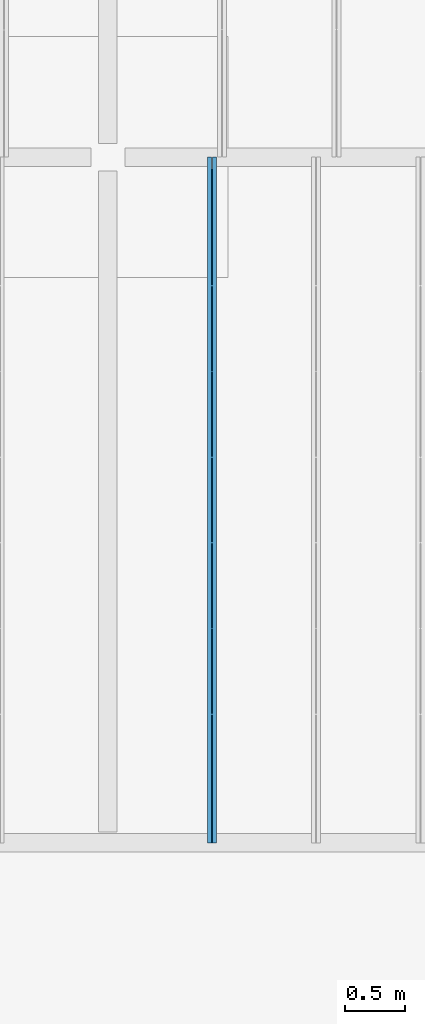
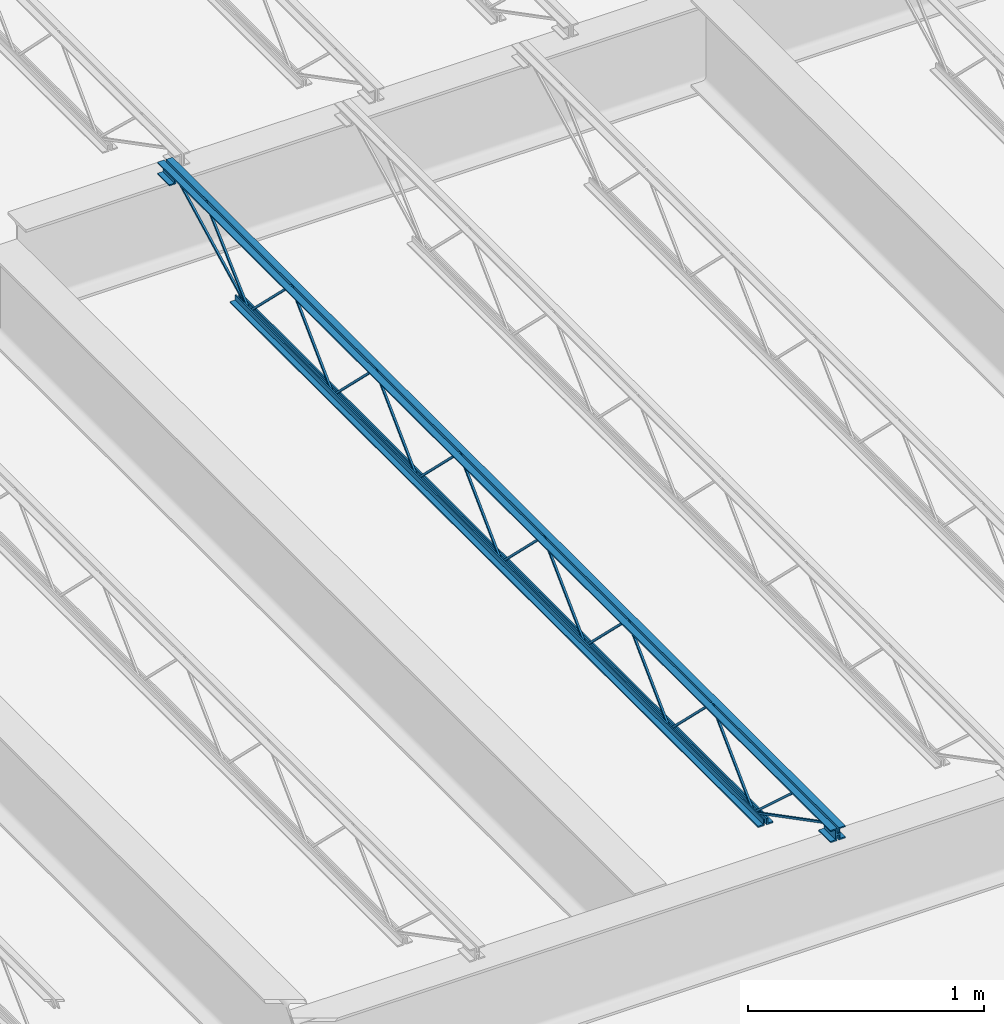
# One storey, part 21 of 75: 1 beam.
"""IFC2X3 building model written with IfcOpenShell, lengths in metres."""

from ifc_helpers import new_model, entity, si_unit, converted_unit, frame, origin, place, context, project, spatial, face_set, surface_model, element, save


model = new_model("IFC2X3")

# Units and contexts
model_context = context("Model", 3, precision=1e-09, world=origin())
plan_context = context("Plan", 3, precision=1e-09, world=origin())
ifc_project = project(units=[si_unit("LENGTHUNIT", "METRE"), si_unit("AREAUNIT", "SQUARE_METRE"), si_unit("VOLUMEUNIT", "CUBIC_METRE"), converted_unit("PLANEANGLEUNIT", "DEGREE", entity("IfcRatioMeasure", 0.01745329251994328), si_unit("PLANEANGLEUNIT", "RADIAN"), dimensions=[0, 0, 0, 0, 0, 0, 0]), si_unit("TIMEUNIT", "SECOND")], contexts=[model_context, plan_context])

# Site, building, storey
site_placement = place(None, origin())
site = spatial("IfcSite", under=ifc_project, at=site_placement, Name="Default", CompositionType="ELEMENT")
building_placement = place(site_placement, origin())
building = spatial("IfcBuilding", under=site, at=building_placement, CompositionType="ELEMENT")
storey_placement = place(building_placement, origin())
storey = spatial("IfcBuildingStorey", under=building, at=storey_placement, Name="First Floor", CompositionType="ELEMENT", Elevation=-3.531500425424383e-13)

# Beam
beam_placement = place(storey_placement, frame((-14.05124594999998, 12.91254609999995, 4.112000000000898)))
element("IfcBeam", 1, at=beam_placement, inside=storey, Name="M_K-Series Bar Joist-Rod Web:14K1:14K1", ObjectType="M_K-Series Bar Joist-Rod Web:14K1", context=model_context, shape_type="SurfaceModel", body=[
    surface_model("IfcFaceBasedSurfaceModel", [(0.04149999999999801, 3.560666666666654, 0.01110000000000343), (0.03200000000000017, 3.560666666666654, 0.01110000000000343), (0.03200000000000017, 3.560666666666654, 0.001600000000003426), (0.04149999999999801, 3.560666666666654, 0.001600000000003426), (0.031999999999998, 3.561899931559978, 0.01110000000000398), (0.041499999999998, 3.561899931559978, 0.01110000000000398), (0.03200000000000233, 3.565783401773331, 0.001600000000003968), (0.0320000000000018, 3.915516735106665, 0.3449000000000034), (0.03200000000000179, 3.917983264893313, 0.3449000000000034), (0.03200000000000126, 4.267716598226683, 0.001600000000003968), (0.03200000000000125, 4.272833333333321, 0.001600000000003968), (0.03199999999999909, 4.272833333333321, 0.01110000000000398), (0.03199999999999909, 4.271600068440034, 0.01110000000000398), (0.03199999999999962, 3.921866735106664, 0.3544000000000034), (0.03199999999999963, 3.911633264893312, 0.3544000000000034), (0.04150000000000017, 3.565783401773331, 0.001600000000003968), (0.04149999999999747, 3.915516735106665, 0.3449000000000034), (0.04149999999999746, 3.91798326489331, 0.3449000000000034), (0.04149999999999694, 4.267716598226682, 0.001600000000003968), (0.04149999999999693, 4.272833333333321, 0.001600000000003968), (0.04149999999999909, 4.272833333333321, 0.01110000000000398), (0.04149999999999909, 4.271600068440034, 0.01110000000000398), (0.04149999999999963, 3.921866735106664, 0.3544000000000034), (0.04149999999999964, 3.911633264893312, 0.3544000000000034), (0.04149999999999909, 2.848499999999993, 0.01110000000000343), (0.03200000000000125, 2.848499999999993, 0.01110000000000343), (0.03200000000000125, 2.848499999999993, 0.001600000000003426), (0.04149999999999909, 2.848499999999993, 0.001600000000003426), (0.03199999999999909, 2.849733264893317, 0.01110000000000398), (0.04149999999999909, 2.849733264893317, 0.01110000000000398), (0.03200000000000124, 2.85361673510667, 0.001600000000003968), (0.03200000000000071, 3.203350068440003, 0.3449000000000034), (0.03200000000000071, 3.20581659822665, 0.3449000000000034), (0.03200000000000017, 3.55554993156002, 0.001600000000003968), (0.03200000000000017, 3.560666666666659, 0.001600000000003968), (0.03200000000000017, 3.560666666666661, 0.01110000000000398), (0.03200000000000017, 3.559433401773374, 0.01110000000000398), (0.0320000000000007, 3.209700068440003, 0.3544000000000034), (0.03200000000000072, 3.199466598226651, 0.3544000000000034), (0.04150000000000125, 2.85361673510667, 0.001600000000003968), (0.04149999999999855, 3.203350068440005, 0.3449000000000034), (0.04149999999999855, 3.20581659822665, 0.3449000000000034), (0.04149999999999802, 3.55554993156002, 0.001600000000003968), (0.04149999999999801, 3.560666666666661, 0.001600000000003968), (0.04149999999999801, 3.560666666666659, 0.01110000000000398), (0.04149999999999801, 3.559433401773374, 0.01110000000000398), (0.04149999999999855, 3.209700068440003, 0.3544000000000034), (0.04149999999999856, 3.199466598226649, 0.3544000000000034), (0.04150000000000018, 2.136333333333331, 0.01110000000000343), (0.03200000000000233, 2.136333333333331, 0.01110000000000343), (0.03200000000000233, 2.136333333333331, 0.001600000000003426), (0.04150000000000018, 2.136333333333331, 0.001600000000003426), (0.03200000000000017, 2.137566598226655, 0.01110000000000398), (0.04150000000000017, 2.137566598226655, 0.01110000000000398), (0.03200000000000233, 2.141450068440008, 0.001600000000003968), (0.0320000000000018, 2.491183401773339, 0.3449000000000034), (0.03200000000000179, 2.493649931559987, 0.3449000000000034), (0.03200000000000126, 2.843383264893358, 0.001600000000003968), (0.03200000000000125, 2.848499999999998, 0.001600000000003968), (0.03200000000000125, 2.848499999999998, 0.01110000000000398), (0.03200000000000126, 2.847266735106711, 0.01110000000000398), (0.03200000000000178, 2.49753340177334, 0.3544000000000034), (0.0320000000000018, 2.487299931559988, 0.3544000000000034), (0.04150000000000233, 2.141450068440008, 0.001600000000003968), (0.04149999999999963, 2.491183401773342, 0.3449000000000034), (0.04149999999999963, 2.493649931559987, 0.3449000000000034), (0.0414999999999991, 2.843383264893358, 0.001600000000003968), (0.04149999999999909, 2.848499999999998, 0.001600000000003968), (0.04149999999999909, 2.848499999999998, 0.01110000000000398), (0.04149999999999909, 2.847266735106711, 0.01110000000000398), (0.04149999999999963, 2.49753340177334, 0.3544000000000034), (0.04149999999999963, 2.487299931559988, 0.3544000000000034), (0.04149999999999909, 1.424166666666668, 0.01110000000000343), (0.03200000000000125, 1.424166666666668, 0.01110000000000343), (0.03200000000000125, 1.424166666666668, 0.001600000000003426), (0.04149999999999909, 1.424166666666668, 0.001600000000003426), (0.03199999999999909, 1.425399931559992, 0.01110000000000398), (0.04149999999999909, 1.425399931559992, 0.01110000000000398), (0.03200000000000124, 1.429283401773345, 0.001600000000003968), (0.03200000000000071, 1.779016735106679, 0.3449000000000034), (0.03200000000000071, 1.781483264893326, 0.3449000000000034), (0.03200000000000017, 2.131216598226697, 0.001600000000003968), (0.03200000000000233, 2.136333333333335, 0.001600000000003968), (0.03200000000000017, 2.136333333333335, 0.01110000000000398), (0.03200000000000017, 2.135100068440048, 0.01110000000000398), (0.0320000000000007, 1.785366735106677, 0.3544000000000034), (0.03200000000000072, 1.775133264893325, 0.3544000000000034), (0.04150000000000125, 1.429283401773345, 0.001600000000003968), (0.04149999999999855, 1.779016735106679, 0.3449000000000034), (0.04149999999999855, 1.781483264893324, 0.3449000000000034), (0.04149999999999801, 2.131216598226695, 0.001600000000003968), (0.04149999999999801, 2.136333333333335, 0.001600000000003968), (0.04150000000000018, 2.136333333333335, 0.01110000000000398), (0.04149999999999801, 2.135100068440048, 0.01110000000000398), (0.04149999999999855, 1.78536673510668, 0.3544000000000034), (0.04149999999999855, 1.775133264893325, 0.3544000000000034), (0.04149999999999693, 4.272833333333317, 0.01109999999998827), (0.03199999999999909, 4.272833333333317, 0.01109999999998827), (0.03199999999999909, 4.272833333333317, 0.001599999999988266), (0.04149999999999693, 4.272833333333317, 0.001599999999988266), (0.03199999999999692, 4.274066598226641, 0.01109999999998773), (0.04149999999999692, 4.274066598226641, 0.01109999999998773), (0.03199999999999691, 4.277950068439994, 0.001599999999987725), (0.03199999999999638, 4.627683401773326, 0.3448999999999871), (0.03199999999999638, 4.630149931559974, 0.3448999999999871), (0.03199999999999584, 4.979883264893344, 0.001599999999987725), (0.031999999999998, 4.984999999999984, 0.001599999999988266), (0.03199999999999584, 4.984999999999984, 0.01109999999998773), (0.03199999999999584, 4.983766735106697, 0.01109999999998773), (0.03199999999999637, 4.634033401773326, 0.3543999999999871), (0.03199999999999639, 4.623799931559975, 0.3543999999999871), (0.04149999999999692, 4.277950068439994, 0.001599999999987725), (0.04149999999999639, 4.627683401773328, 0.3448999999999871), (0.04149999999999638, 4.630149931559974, 0.3448999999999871), (0.04149999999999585, 4.979883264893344, 0.001599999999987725), (0.04149999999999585, 4.984999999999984, 0.001599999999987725), (0.04149999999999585, 4.984999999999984, 0.01109999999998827), (0.04149999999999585, 4.983766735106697, 0.01109999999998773), (0.04149999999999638, 4.634033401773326, 0.3543999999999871), (0.04149999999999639, 4.623799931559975, 0.3543999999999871), (0.04150000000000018, 0.7120000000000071, 0.01110000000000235), (0.03200000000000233, 0.7120000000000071, 0.01110000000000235), (0.03200000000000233, 0.7120000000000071, 0.001600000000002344), (0.04150000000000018, 0.7120000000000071, 0.001600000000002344), (0.03200000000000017, 0.7132332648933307, 0.01110000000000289), (0.04150000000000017, 0.7132332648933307, 0.01110000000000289), (0.03200000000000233, 0.717116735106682, 0.001600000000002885), (0.0320000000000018, 1.066850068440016, 0.3449000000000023), (0.03200000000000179, 1.069316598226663, 0.3449000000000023), (0.03200000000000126, 1.419049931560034, 0.001600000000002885), (0.03200000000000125, 1.424166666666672, 0.001600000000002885), (0.03200000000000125, 1.424166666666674, 0.01110000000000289), (0.03200000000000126, 1.422933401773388, 0.01110000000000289), (0.03200000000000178, 1.073200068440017, 0.3544000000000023), (0.0320000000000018, 1.062966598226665, 0.3544000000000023), (0.04150000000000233, 0.7171167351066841, 0.001600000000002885), (0.04149999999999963, 1.066850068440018, 0.3449000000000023), (0.04149999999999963, 1.069316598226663, 0.3449000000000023), (0.04149999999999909, 1.419049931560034, 0.001600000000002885), (0.04149999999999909, 1.424166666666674, 0.001600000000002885), (0.04149999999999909, 1.424166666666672, 0.01110000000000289), (0.04149999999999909, 1.422933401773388, 0.01110000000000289), (0.04149999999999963, 1.073200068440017, 0.3544000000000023), (0.04149999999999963, 1.062966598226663, 0.3544000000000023), (0.03199999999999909, 5.697, 0.3559999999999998), (0.0, 5.697, 0.3559999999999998), (0.0, 5.697, 0.349499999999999), (0.0254999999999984, 5.697, 0.349499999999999), (0.0254999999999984, 5.697, 0.3239999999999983), (0.03199999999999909, 5.697, 0.3239999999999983), (0.04149999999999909, 5.697, 0.3559999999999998), (0.04149999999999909, 5.697, 0.3239999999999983), (0.04799999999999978, 5.697, 0.3239999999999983), (0.04799999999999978, 5.697, 0.349499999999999), (0.07349999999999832, 5.697, 0.349499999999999), (0.07349999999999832, 5.697, 0.3559999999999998), (0.03199999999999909, 0.0, 0.3559999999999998), (0.0, 0.0, 0.3559999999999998), (0.0, 0.0, 0.349499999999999), (0.0254999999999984, 0.0, 0.349499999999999), (0.0254999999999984, 0.0, 0.3239999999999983), (0.03199999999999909, 0.0, 0.3239999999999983), (0.04149999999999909, 0.0, 0.3559999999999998), (0.04149999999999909, 0.0, 0.3239999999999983), (0.04799999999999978, 0.0, 0.3239999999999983), (0.04799999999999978, 0.0, 0.349499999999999), (0.07349999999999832, 0.0, 0.349499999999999), (0.07349999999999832, 0.0, 0.3559999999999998), (0.04149999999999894, 0.0999999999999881, 0.2924999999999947), (0.07349999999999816, 0.0999999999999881, 0.2924999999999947), (0.07349999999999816, 0.0999999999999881, 0.2989999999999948), (0.04799999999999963, 0.0999999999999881, 0.2989999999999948), (0.04799999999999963, 0.0999999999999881, 0.3239999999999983), (0.04149999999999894, 0.0999999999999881, 0.3239999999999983), (0.0, 0.0999999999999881, 0.2924999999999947), (0.03199999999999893, 0.0999999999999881, 0.2924999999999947), (0.03199999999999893, 0.0999999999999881, 0.3239999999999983), (0.02549999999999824, 0.0999999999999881, 0.3239999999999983), (0.02549999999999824, 0.0999999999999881, 0.2989999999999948), (0.0, 0.0999999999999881, 0.2989999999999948), (0.04149999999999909, 0.0, 0.2924999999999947), (0.07349999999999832, 0.0, 0.2924999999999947), (0.07349999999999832, 0.0, 0.2989999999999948), (0.04799999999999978, 0.0, 0.2989999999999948), (0.0, 0.0, 0.2924999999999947), (0.03199999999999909, 0.0, 0.2924999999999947), (0.0254999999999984, 0.0, 0.2989999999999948), (0.0, 0.0, 0.2989999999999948), (0.03199999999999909, 5.697, 0.2924999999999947), (0.02550000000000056, 5.697, 0.3239999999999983), (0.02550000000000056, 5.697, 0.2989999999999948), (0.0, 5.697, 0.2989999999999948), (0.0, 5.697, 0.2924999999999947), (0.04149999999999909, 5.697, 0.2924999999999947), (0.07350000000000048, 5.697, 0.2924999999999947), (0.07350000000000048, 5.697, 0.2989999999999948), (0.04799999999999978, 5.697, 0.2989999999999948), (0.03199999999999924, 5.597000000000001, 0.2924999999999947), (0.03199999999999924, 5.597000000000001, 0.3239999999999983), (0.02550000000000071, 5.597000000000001, 0.3239999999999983), (0.02550000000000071, 5.597000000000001, 0.2989999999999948), (0.0, 5.597000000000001, 0.2989999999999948), (0.0, 5.597000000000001, 0.2924999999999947), (0.04149999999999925, 5.597000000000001, 0.2924999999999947), (0.07350000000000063, 5.597000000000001, 0.2924999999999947), (0.07350000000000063, 5.597000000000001, 0.2989999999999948), (0.04799999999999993, 5.597000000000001, 0.2989999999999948), (0.04799999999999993, 5.597000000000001, 0.3239999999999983), (0.04149999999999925, 5.597000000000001, 0.3239999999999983), (0.03200000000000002, 5.085000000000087, 0.0), (0.03200000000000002, 5.085000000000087, 0.03199999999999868), (0.02549999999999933, 5.085000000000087, 0.03199999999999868), (0.02549999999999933, 5.085000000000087, 0.006499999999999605), (0.0, 5.085000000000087, 0.006499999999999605), (0.0, 5.085000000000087, 0.0), (0.04150000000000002, 5.085000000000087, 0.0), (0.07349999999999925, 5.085000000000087, 0.0), (0.07349999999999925, 5.085000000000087, 0.006499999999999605), (0.04800000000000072, 5.085000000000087, 0.006499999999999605), (0.04800000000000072, 5.085000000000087, 0.03199999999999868), (0.04150000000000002, 5.085000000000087, 0.03199999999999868), (0.03199999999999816, 0.6120000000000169, 0.0), (0.03199999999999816, 0.6120000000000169, 0.03199999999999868), (0.02549999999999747, 0.6120000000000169, 0.03199999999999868), (0.02549999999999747, 0.6120000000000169, 0.006499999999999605), (0.0, 0.6120000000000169, 0.006499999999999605), (0.0, 0.6120000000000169, 0.0), (0.04149999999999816, 0.6120000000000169, 0.0), (0.07349999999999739, 0.6120000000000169, 0.0), (0.07349999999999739, 0.6120000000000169, 0.006499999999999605), (0.04799999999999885, 0.6120000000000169, 0.006499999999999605), (0.04799999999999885, 0.6120000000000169, 0.03199999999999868), (0.04149999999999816, 0.6120000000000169, 0.03199999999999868), (0.04150000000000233, 0.7141882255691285, 0.01056594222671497), (0.03200000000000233, 0.7141882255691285, 0.01056594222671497), (0.03200000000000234, 0.7098117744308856, 0.002134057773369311), (0.04150000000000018, 0.7098117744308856, 0.002134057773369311), (0.04150000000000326, 0.1011592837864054, 0.3287499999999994), (0.04150000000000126, 0.0, 0.3287499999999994), (0.04150000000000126, 0.0, 0.3192499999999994), (0.04150000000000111, 0.09884071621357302, 0.3192499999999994), (0.0320000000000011, 0.09884071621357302, 0.3192499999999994), (0.0320000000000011, 0.1011592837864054, 0.3287499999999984), (0.03200000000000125, 0.0, 0.3287499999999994), (0.03200000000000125, 0.0, 0.3192499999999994), (0.04149999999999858, 0.3359595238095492, 0.341700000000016), (0.03200000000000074, 0.3359595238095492, 0.341700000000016), (0.03200000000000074, 0.3359595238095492, 0.332200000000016), (0.04149999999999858, 0.3359595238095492, 0.332200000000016), (0.03199999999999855, 0.3504971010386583, 0.341700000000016), (0.04149999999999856, 0.3504971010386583, 0.341700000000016), (0.03200000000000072, 0.3468219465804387, 0.3322000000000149), (0.03200000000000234, 0.7088032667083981, 0.002836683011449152), (0.03200000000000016, 0.7151967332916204, 0.009863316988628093), (0.04150000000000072, 0.3468219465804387, 0.332200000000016), (0.04149999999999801, 0.7088032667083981, 0.002836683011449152), (0.04150000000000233, 0.7151967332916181, 0.009863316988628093), (0.04149999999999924, 5.599188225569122, 0.3197840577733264), (0.04149999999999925, 5.594811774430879, 0.3282159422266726), (0.0320000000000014, 5.594811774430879, 0.3282159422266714), (0.0320000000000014, 5.599188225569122, 0.3197840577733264), (0.04150000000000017, 4.987188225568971, 0.002134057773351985), (0.04149999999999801, 4.982811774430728, 0.01056594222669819), (0.031999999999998, 4.982811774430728, 0.01056594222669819), (0.03200000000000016, 4.987188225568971, 0.002134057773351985), (0.0414999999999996, 5.358825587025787, 0.3461653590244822), (0.04149999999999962, 5.352369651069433, 0.3531346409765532), (0.03199999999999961, 5.352369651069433, 0.3531346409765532), (0.03200000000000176, 5.358825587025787, 0.3461653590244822), (0.041499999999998, 4.988227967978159, 0.002865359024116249), (0.04149999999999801, 4.981772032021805, 0.009834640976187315), (0.031999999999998, 4.981772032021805, 0.009834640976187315), (0.03200000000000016, 4.988227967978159, 0.002865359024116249)], [face_set([[[0, 1, 2, 3]], [[1, 4, 5, 0]], [[2, 6, 7, 8, 9, 10, 11, 12, 13, 14, 4, 1]], [[3, 2, 6, 15]], [[0, 3, 15, 16, 17, 18, 19, 20, 21, 22, 23, 5]], [[4, 5, 23, 14]], [[15, 16, 7, 6]], [[14, 13, 22, 23]], [[16, 7, 8, 17]], [[13, 12, 21, 22]], [[17, 8, 9, 18]], [[20, 11, 10, 19]], [[12, 11, 20, 21]], [[18, 9, 10, 19]]]), face_set([[[24, 25, 26, 27]], [[25, 28, 29, 24]], [[26, 30, 31, 32, 33, 34, 35, 36, 37, 38, 28, 25]], [[27, 26, 30, 39]], [[24, 27, 39, 40, 41, 42, 43, 44, 45, 46, 47, 29]], [[28, 29, 47, 38]], [[39, 40, 31, 30]], [[38, 37, 46, 47]], [[40, 31, 32, 41]], [[37, 36, 45, 46]], [[41, 32, 33, 42]], [[44, 35, 34, 43]], [[36, 35, 44, 45]], [[42, 33, 34, 43]]]), face_set([[[48, 49, 50, 51]], [[49, 52, 53, 48]], [[50, 54, 55, 56, 57, 58, 59, 60, 61, 62, 52, 49]], [[51, 50, 54, 63]], [[48, 51, 63, 64, 65, 66, 67, 68, 69, 70, 71, 53]], [[52, 53, 71, 62]], [[63, 64, 55, 54]], [[62, 61, 70, 71]], [[64, 55, 56, 65]], [[61, 60, 69, 70]], [[65, 56, 57, 66]], [[68, 59, 58, 67]], [[60, 59, 68, 69]], [[66, 57, 58, 67]]]), face_set([[[72, 73, 74, 75]], [[73, 76, 77, 72]], [[74, 78, 79, 80, 81, 82, 83, 84, 85, 86, 76, 73]], [[75, 74, 78, 87]], [[72, 75, 87, 88, 89, 90, 91, 92, 93, 94, 95, 77]], [[76, 77, 95, 86]], [[87, 88, 79, 78]], [[86, 85, 94, 95]], [[88, 79, 80, 89]], [[85, 84, 93, 94]], [[89, 80, 81, 90]], [[92, 83, 82, 91]], [[84, 83, 92, 93]], [[90, 81, 82, 91]]]), face_set([[[96, 97, 98, 99]], [[97, 100, 101, 96]], [[98, 102, 103, 104, 105, 106, 107, 108, 109, 110, 100, 97]], [[99, 98, 102, 111]], [[96, 99, 111, 112, 113, 114, 115, 116, 117, 118, 119, 101]], [[100, 101, 119, 110]], [[111, 112, 103, 102]], [[110, 109, 118, 119]], [[112, 103, 104, 113]], [[109, 108, 117, 118]], [[113, 104, 105, 114]], [[116, 107, 106, 115]], [[108, 107, 116, 117]], [[114, 105, 106, 115]]]), face_set([[[120, 121, 122, 123]], [[121, 124, 125, 120]], [[122, 126, 127, 128, 129, 130, 131, 132, 133, 134, 124, 121]], [[123, 122, 126, 135]], [[120, 123, 135, 136, 137, 138, 139, 140, 141, 142, 143, 125]], [[124, 125, 143, 134]], [[135, 136, 127, 126]], [[134, 133, 142, 143]], [[136, 127, 128, 137]], [[133, 132, 141, 142]], [[137, 128, 129, 138]], [[140, 131, 130, 139]], [[132, 131, 140, 141]], [[138, 129, 130, 139]]]), face_set([[[144, 145, 146, 147, 148, 149]], [[150, 151, 152, 153, 154, 155]], [[156, 157, 158, 159, 160, 161]], [[162, 163, 164, 165, 166, 167]], [[149, 144, 156, 161]], [[148, 149, 161, 160]], [[147, 159, 160, 148]], [[146, 147, 159, 158]], [[145, 157, 158, 146]], [[144, 156, 157, 145]], [[155, 167, 162, 150]], [[154, 155, 167, 166]], [[153, 154, 166, 165]], [[152, 153, 165, 164]], [[151, 152, 164, 163]], [[150, 162, 163, 151]]]), face_set([[[168, 169, 170, 171, 172, 173]], [[174, 175, 176, 177, 178, 179]], [[180, 181, 182, 183, 164, 163]], [[184, 185, 161, 160, 186, 187]], [[173, 163, 180, 168]], [[172, 164, 163, 173]], [[171, 172, 164, 183]], [[170, 182, 183, 171]], [[169, 170, 182, 181]], [[168, 169, 181, 180]], [[179, 187, 184, 174]], [[178, 186, 187, 179]], [[177, 160, 186, 178]], [[176, 161, 160, 177]], [[175, 176, 161, 185]], [[174, 175, 185, 184]]]), face_set([[[188, 149, 189, 190, 191, 192]], [[193, 194, 195, 196, 152, 151]], [[197, 198, 199, 200, 201, 202]], [[203, 204, 205, 206, 207, 208]], [[192, 188, 197, 202]], [[191, 201, 202, 192]], [[190, 200, 201, 191]], [[189, 199, 200, 190]], [[149, 198, 199, 189]], [[188, 149, 198, 197]], [[151, 208, 203, 193]], [[152, 207, 208, 151]], [[196, 152, 207, 206]], [[195, 205, 206, 196]], [[194, 195, 205, 204]], [[193, 194, 204, 203]]]), face_set([[[209, 210, 211, 212, 213, 214]], [[215, 216, 217, 218, 219, 220]], [[221, 222, 223, 224, 225, 226]], [[227, 228, 229, 230, 231, 232]], [[214, 209, 221, 226]], [[213, 225, 226, 214]], [[212, 224, 225, 213]], [[211, 223, 224, 212]], [[210, 222, 223, 211]], [[209, 210, 222, 221]], [[220, 232, 227, 215]], [[219, 231, 232, 220]], [[218, 219, 231, 230]], [[217, 229, 230, 218]], [[216, 217, 229, 228]], [[215, 216, 228, 227]]]), face_set([[[233, 234, 235, 236]], [[236, 233, 237, 238, 239, 240]], [[235, 236, 240, 241]], [[234, 242, 243, 244, 241, 235]], [[233, 237, 242, 234]], [[238, 243, 244, 239]], [[241, 240, 239, 244]], [[237, 238, 243, 242]]]), face_set([[[245, 246, 247, 248]], [[246, 249, 250, 245]], [[247, 251, 252, 253, 249, 246]], [[248, 247, 251, 254]], [[245, 248, 254, 255, 256, 250]], [[256, 253, 252, 255]], [[249, 253, 256, 250]], [[254, 251, 252, 255]]]), face_set([[[257, 258, 259, 260]], [[261, 262, 263, 264]], [[260, 264, 261, 257]], [[259, 263, 264, 260]], [[258, 259, 263, 262]], [[257, 258, 262, 261]]]), face_set([[[265, 266, 267, 268]], [[269, 270, 271, 272]], [[268, 272, 269, 265]], [[267, 271, 272, 268]], [[266, 267, 271, 270]], [[265, 266, 270, 269]]])]),
])

save(model, "model.ifc")
